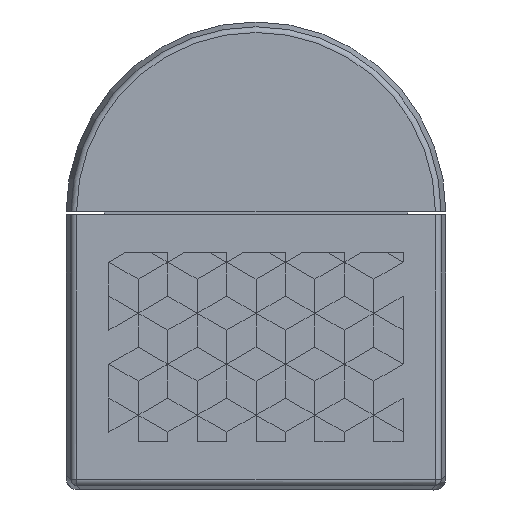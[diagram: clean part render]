
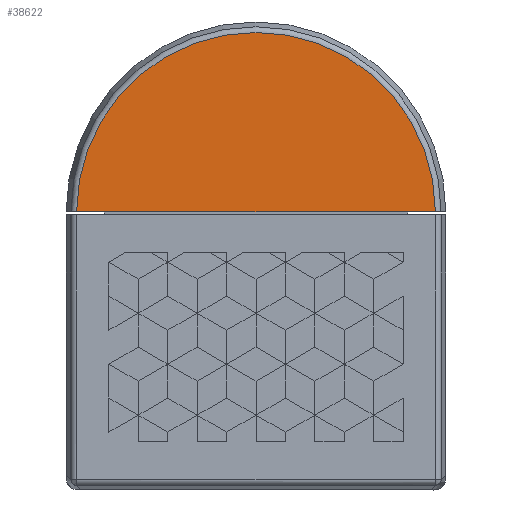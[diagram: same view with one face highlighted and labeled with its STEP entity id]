
A CAD part, front view. The second image highlights one B-rep face of the part: STEP entity #38622.
In plain terms, the highlighted planar face has unit normal (0, -1, 0).
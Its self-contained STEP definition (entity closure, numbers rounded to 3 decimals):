
#1632=CIRCLE('',#41596,30.469);
#3656=FACE_OUTER_BOUND('',#5720,.T.);
#5720=EDGE_LOOP('',(#34912,#34913));
#10071=LINE('',#64577,#14508);
#14508=VECTOR('',#51860,10.);
#18142=VERTEX_POINT('',#64569);
#18144=VERTEX_POINT('',#64573);
#23694=EDGE_CURVE('',#18142,#18144,#1632,.T.);
#23695=EDGE_CURVE('',#18142,#18144,#10071,.T.);
#34912=ORIENTED_EDGE('',*,*,#23694,.T.);
#34913=ORIENTED_EDGE('',*,*,#23695,.F.);
#36595=PLANE('',#41636);
#38622=ADVANCED_FACE('',(#3656),#36595,.F.);
#41596=AXIS2_PLACEMENT_3D('',#64575,#51856,#51857);
#41636=AXIS2_PLACEMENT_3D('',#64767,#52021,#52022);
#51856=DIRECTION('center_axis',(0.,-1.,0.));
#51857=DIRECTION('ref_axis',(0.,0.,1.));
#51860=DIRECTION('',(-1.,0.,0.));
#52021=DIRECTION('center_axis',(0.,1.,0.));
#52022=DIRECTION('ref_axis',(1.,0.,0.));
#64569=CARTESIAN_POINT('',(-169.531,-84.,0.));
#64573=CARTESIAN_POINT('',(-230.469,-84.,0.));
#64575=CARTESIAN_POINT('Origin',(-200.,-84.,0.));
#64577=CARTESIAN_POINT('',(-167.75,-84.,0.));
#64767=CARTESIAN_POINT('Origin',(-200.,-84.,-7.5));
